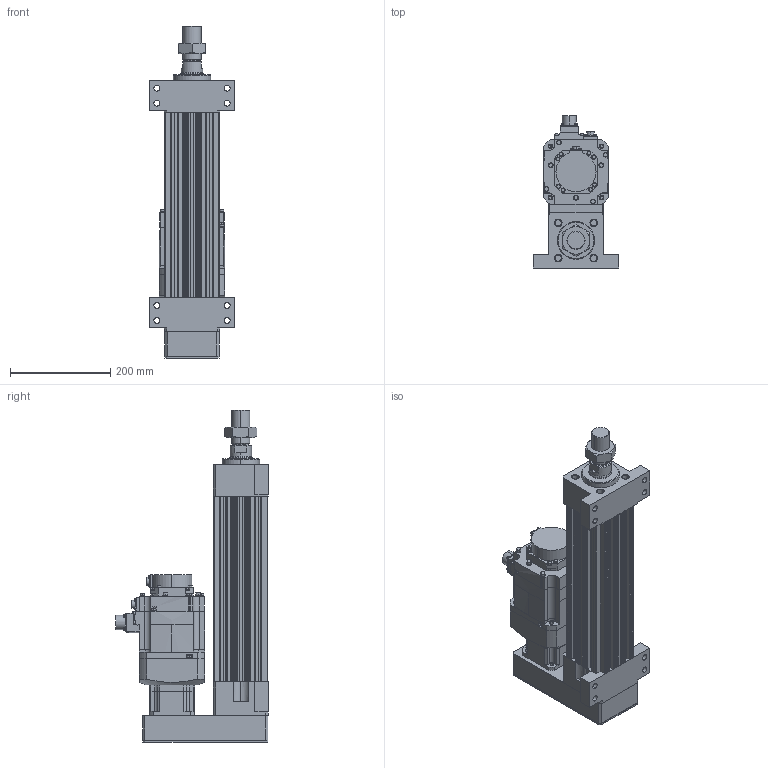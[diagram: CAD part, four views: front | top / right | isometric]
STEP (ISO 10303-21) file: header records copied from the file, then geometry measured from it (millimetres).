
FILE_DESCRIPTION (( 'STEP AP203' ), '1' );
FILE_NAME ('HES110NS(HS)-P200-W010G00-M-FFB.STEP', '2026-06-10T05:51:55', ( 'tms' ), ( '' ), 'SwSTEP 2.0', 'SolidWorks 2013', '' );
FILE_SCHEMA (( 'CONFIG_CONTROL_DESIGN' ));
Length unit declared in the file: millimetre
Products named in the file (8): HES110-P-G90; HES110-FFB-200; M36X1.5P; HG-SR102B; AB0902; HES110-M-ROD-200; HES110NS(HS)-P200-W010G00-M-FFB; AB0901
Assembly tree (7 placements, depth 2):
  HES110NS(HS)-P200-W010G00-M-FFB
    HES110-FFB-200
    HES110-M-ROD-200
    M36X1.5P
    HES110-P-G90
    AB0901
    AB0902
    HG-SR102B
Bounding box: 170 x 304.99 x 663 mm (x, y, z)
Volume: 7141550.4 mm3; surface area: 889906.8 mm2
Topology: 5 solids, 12 shells, 1157 faces, 2938 edges, 1909 vertices
Faces by surface type: cylinder 550, plane 517, cone 76, bspline 10, torus 4
Entity records: 37070 total; most frequent: CARTESIAN_POINT 7324, DIRECTION 6373, ORIENTED_EDGE 5832, EDGE_CURVE 2926, AXIS2_PLACEMENT_3D 2382, VERTEX_POINT 1909, VECTOR 1609, LINE 1609
